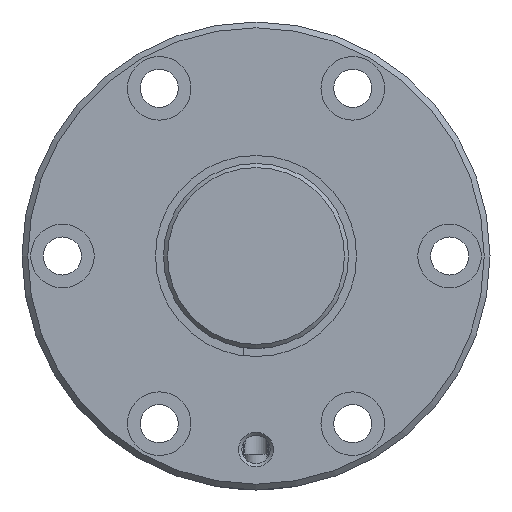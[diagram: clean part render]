
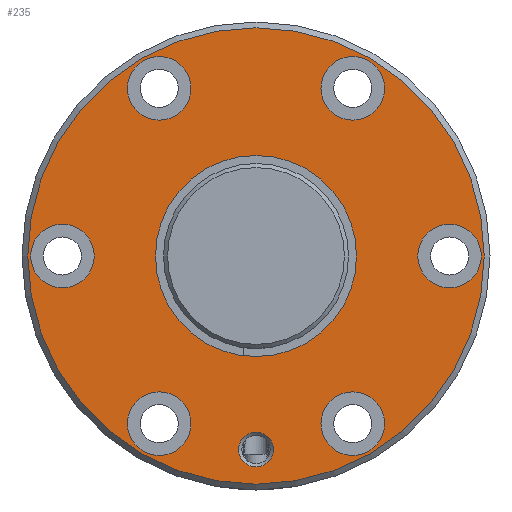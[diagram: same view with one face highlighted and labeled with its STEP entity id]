
A CAD part, left-side view. The second image highlights one B-rep face of the part: STEP entity #235.
In plain terms, the highlighted planar face has unit normal (-1, 0, 0).
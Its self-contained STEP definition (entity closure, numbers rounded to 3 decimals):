
#235 = ADVANCED_FACE( '', ( #458, #459, #460, #461, #462, #463, #464, #465, #466 ), #467, .T. );
#458 = FACE_BOUND( '', #755, .T. );
#459 = FACE_BOUND( '', #756, .T. );
#460 = FACE_BOUND( '', #757, .T. );
#461 = FACE_BOUND( '', #758, .T. );
#462 = FACE_BOUND( '', #759, .T. );
#463 = FACE_BOUND( '', #760, .T. );
#464 = FACE_BOUND( '', #761, .T. );
#465 = FACE_BOUND( '', #762, .T. );
#466 = FACE_OUTER_BOUND( '', #763, .T. );
#467 = PLANE( '', #764 );
#755 = EDGE_LOOP( '', ( #1304 ) );
#756 = EDGE_LOOP( '', ( #1305 ) );
#757 = EDGE_LOOP( '', ( #1306 ) );
#758 = EDGE_LOOP( '', ( #1307 ) );
#759 = EDGE_LOOP( '', ( #1308 ) );
#760 = EDGE_LOOP( '', ( #1309 ) );
#761 = EDGE_LOOP( '', ( #1310 ) );
#762 = EDGE_LOOP( '', ( #1311 ) );
#763 = EDGE_LOOP( '', ( #1312 ) );
#764 = AXIS2_PLACEMENT_3D( '', #1313, #1314, #1315 );
#1304 = ORIENTED_EDGE( '', *, *, #1628, .T. );
#1305 = ORIENTED_EDGE( '', *, *, #1629, .T. );
#1306 = ORIENTED_EDGE( '', *, *, #1516, .T. );
#1307 = ORIENTED_EDGE( '', *, *, #1630, .T. );
#1308 = ORIENTED_EDGE( '', *, *, #1631, .T. );
#1309 = ORIENTED_EDGE( '', *, *, #1632, .T. );
#1310 = ORIENTED_EDGE( '', *, *, #1633, .T. );
#1311 = ORIENTED_EDGE( '', *, *, #1634, .T. );
#1312 = ORIENTED_EDGE( '', *, *, #1635, .F. );
#1313 = CARTESIAN_POINT( '', ( 0., 39.5, 0. ) );
#1314 = DIRECTION( '', ( -1., 0., 0. ) );
#1315 = DIRECTION( '', ( 0., 0., 1. ) );
#1516 = EDGE_CURVE( '', #1709, #1709, #1710, .T. );
#1628 = EDGE_CURVE( '', #1893, #1893, #1894, .T. );
#1629 = EDGE_CURVE( '', #1895, #1895, #1896, .F. );
#1630 = EDGE_CURVE( '', #1897, #1897, #1898, .T. );
#1631 = EDGE_CURVE( '', #1899, #1899, #1900, .T. );
#1632 = EDGE_CURVE( '', #1901, #1901, #1902, .T. );
#1633 = EDGE_CURVE( '', #1903, #1903, #1904, .T. );
#1634 = EDGE_CURVE( '', #1905, #1905, #1906, .T. );
#1635 = EDGE_CURVE( '', #1907, #1907, #1908, .T. );
#1709 = VERTEX_POINT( '', #2115 );
#1710 = CIRCLE( '', #2116, 3. );
#1893 = VERTEX_POINT( '', #2904 );
#1894 = CIRCLE( '', #2905, 17.4 );
#1895 = VERTEX_POINT( '', #2906 );
#1896 = CIRCLE( '', #2907, 5.5 );
#1897 = VERTEX_POINT( '', #2908 );
#1898 = CIRCLE( '', #2909, 5.5 );
#1899 = VERTEX_POINT( '', #2910 );
#1900 = CIRCLE( '', #2911, 5.5 );
#1901 = VERTEX_POINT( '', #2912 );
#1902 = CIRCLE( '', #2913, 5.5 );
#1903 = VERTEX_POINT( '', #2914 );
#1904 = CIRCLE( '', #2915, 5.5 );
#1905 = VERTEX_POINT( '', #2916 );
#1906 = CIRCLE( '', #2917, 5.5 );
#1907 = VERTEX_POINT( '', #2918 );
#1908 = CIRCLE( '', #2919, 39.5 );
#2115 = CARTESIAN_POINT( '', ( 0., 0., -36.5 ) );
#2116 = AXIS2_PLACEMENT_3D( '', #3023, #3024, #3025 );
#2904 = CARTESIAN_POINT( '', ( 0., 0., -17.4 ) );
#2905 = AXIS2_PLACEMENT_3D( '', #3231, #3232, #3233 );
#2906 = CARTESIAN_POINT( '', ( 0., 33.5, 5.5 ) );
#2907 = AXIS2_PLACEMENT_3D( '', #3234, #3235, #3236 );
#2908 = CARTESIAN_POINT( '', ( 0., 16.75, 23.512 ) );
#2909 = AXIS2_PLACEMENT_3D( '', #3237, #3238, #3239 );
#2910 = CARTESIAN_POINT( '', ( 0., -16.75, -34.512 ) );
#2911 = AXIS2_PLACEMENT_3D( '', #3240, #3241, #3242 );
#2912 = CARTESIAN_POINT( '', ( 0., -16.75, 23.512 ) );
#2913 = AXIS2_PLACEMENT_3D( '', #3243, #3244, #3245 );
#2914 = CARTESIAN_POINT( '', ( 0., 16.75, -34.512 ) );
#2915 = AXIS2_PLACEMENT_3D( '', #3246, #3247, #3248 );
#2916 = CARTESIAN_POINT( '', ( 0., -33.5, -5.5 ) );
#2917 = AXIS2_PLACEMENT_3D( '', #3249, #3250, #3251 );
#2918 = CARTESIAN_POINT( '', ( 0., 0., -39.5 ) );
#2919 = AXIS2_PLACEMENT_3D( '', #3252, #3253, #3254 );
#3023 = CARTESIAN_POINT( '', ( 0., 0., -33.5 ) );
#3024 = DIRECTION( '', ( 1., 0., 0. ) );
#3025 = DIRECTION( '', ( 0., 0., -1. ) );
#3231 = CARTESIAN_POINT( '', ( 0., 0., 0. ) );
#3232 = DIRECTION( '', ( 1., 0., 0. ) );
#3233 = DIRECTION( '', ( 0., 0., -1. ) );
#3234 = CARTESIAN_POINT( '', ( 0., 33.5, 0. ) );
#3235 = DIRECTION( '', ( -1., 0., 0. ) );
#3236 = DIRECTION( '', ( 0., 0., 1. ) );
#3237 = CARTESIAN_POINT( '', ( 0., 16.75, 29.012 ) );
#3238 = DIRECTION( '', ( 1., 0., 0. ) );
#3239 = DIRECTION( '', ( 0., 0., -1. ) );
#3240 = CARTESIAN_POINT( '', ( 0., -16.75, -29.012 ) );
#3241 = DIRECTION( '', ( 1., 0., 0. ) );
#3242 = DIRECTION( '', ( 0., 0., -1. ) );
#3243 = CARTESIAN_POINT( '', ( 0., -16.75, 29.012 ) );
#3244 = DIRECTION( '', ( 1., 0., 0. ) );
#3245 = DIRECTION( '', ( 0., 0., -1. ) );
#3246 = CARTESIAN_POINT( '', ( 0., 16.75, -29.012 ) );
#3247 = DIRECTION( '', ( 1., 0., 0. ) );
#3248 = DIRECTION( '', ( 0., 0., -1. ) );
#3249 = CARTESIAN_POINT( '', ( 0., -33.5, 0. ) );
#3250 = DIRECTION( '', ( 1., 0., 0. ) );
#3251 = DIRECTION( '', ( 0., 0., -1. ) );
#3252 = CARTESIAN_POINT( '', ( 0., 0., 0. ) );
#3253 = DIRECTION( '', ( 1., 0., 0. ) );
#3254 = DIRECTION( '', ( 0., 0., -1. ) );
